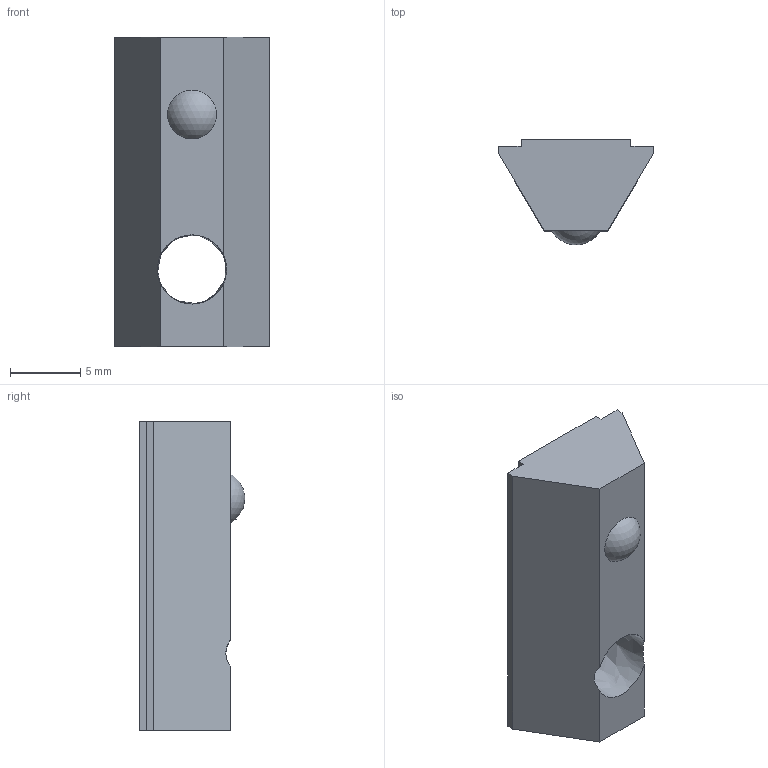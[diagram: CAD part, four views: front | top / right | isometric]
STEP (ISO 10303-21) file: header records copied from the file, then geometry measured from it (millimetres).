
FILE_DESCRIPTION((''),'2;1');
FILE_NAME('E:\catalogue and flyer\Profile catalogue 2015\Accessories JE info\Accessories-JE step file 31MAr16\JE-HRN6-8_3030.stp','2016-03-31T16:02:19',('h029'),(''),'Autodesk Inventor 11','Autodesk Inventor 11','');
FILE_SCHEMA(('AUTOMOTIVE_DESIGN { 1 0 10303 214 1 1 1 1 }'));
Length unit declared in the file: millimetre
Products named in the file (1): JE-HRN6-8_3030
Bounding box: 11 x 7.49 x 22 mm (x, y, z)
Volume: 1026.4 mm3; surface area: 834.2 mm2
Topology: 1 solids, 1 shells, 15 faces, 40 edges, 27 vertices
Faces by surface type: plane 13, sphere 1, bspline 1
Entity records: 494 total; most frequent: CARTESIAN_POINT 97, ORIENTED_EDGE 76, DIRECTION 74, EDGE_CURVE 38, VECTOR 32, LINE 32, VERTEX_POINT 26, AXIS2_PLACEMENT_3D 21
